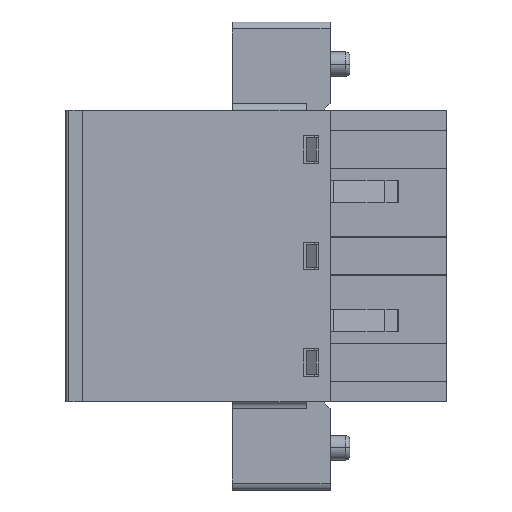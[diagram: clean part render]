
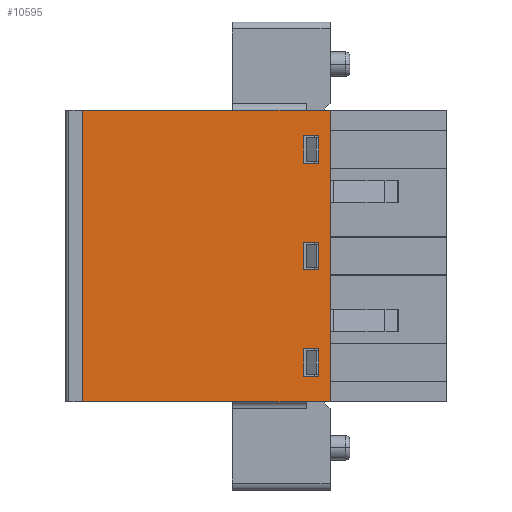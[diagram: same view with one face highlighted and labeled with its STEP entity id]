
A CAD part, left-side view. The second image highlights one B-rep face of the part: STEP entity #10595.
In plain terms, the highlighted planar face has unit normal (-1, 0, 0).
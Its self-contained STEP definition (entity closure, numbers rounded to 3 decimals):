
#947=DIRECTION('',(0.,1.,0.));
#948=VECTOR('',#947,17.7);
#949=CARTESIAN_POINT('',(0.55,8.3,-28.1));
#950=LINE('',#949,#948);
#3428=DIRECTION('',(0.,0.,-1.));
#3429=VECTOR('',#3428,20.86);
#3430=CARTESIAN_POINT('',(0.55,26.,-28.1));
#3431=LINE('',#3430,#3429);
#3436=DIRECTION('',(0.,1.,0.));
#3437=VECTOR('',#3436,17.7);
#3438=CARTESIAN_POINT('',(0.55,8.3,-48.96));
#3439=LINE('',#3438,#3437);
#3440=DIRECTION('',(0.,-1.,0.));
#3441=VECTOR('',#3440,1.1);
#3442=CARTESIAN_POINT('',(0.55,10.2,-31.91));
#3443=LINE('',#3442,#3441);
#3444=DIRECTION('',(0.,0.,1.));
#3445=VECTOR('',#3444,2.);
#3446=CARTESIAN_POINT('',(0.55,9.1,-31.91));
#3447=LINE('',#3446,#3445);
#3448=DIRECTION('',(0.,1.,0.));
#3449=VECTOR('',#3448,1.1);
#3450=CARTESIAN_POINT('',(0.55,9.1,-29.91));
#3451=LINE('',#3450,#3449);
#3452=DIRECTION('',(0.,0.,-1.));
#3453=VECTOR('',#3452,2.);
#3454=CARTESIAN_POINT('',(0.55,10.2,-29.91));
#3455=LINE('',#3454,#3453);
#3456=DIRECTION('',(0.,-1.,0.));
#3457=VECTOR('',#3456,1.1);
#3458=CARTESIAN_POINT('',(0.55,10.2,-39.53));
#3459=LINE('',#3458,#3457);
#3460=DIRECTION('',(0.,0.,1.));
#3461=VECTOR('',#3460,2.);
#3462=CARTESIAN_POINT('',(0.55,9.1,-39.53));
#3463=LINE('',#3462,#3461);
#3464=DIRECTION('',(0.,1.,0.));
#3465=VECTOR('',#3464,1.1);
#3466=CARTESIAN_POINT('',(0.55,9.1,-37.53));
#3467=LINE('',#3466,#3465);
#3468=DIRECTION('',(0.,0.,-1.));
#3469=VECTOR('',#3468,2.);
#3470=CARTESIAN_POINT('',(0.55,10.2,-37.53));
#3471=LINE('',#3470,#3469);
#3472=DIRECTION('',(0.,-1.,0.));
#3473=VECTOR('',#3472,1.1);
#3474=CARTESIAN_POINT('',(0.55,10.2,-47.15));
#3475=LINE('',#3474,#3473);
#3476=DIRECTION('',(0.,0.,1.));
#3477=VECTOR('',#3476,2.);
#3478=CARTESIAN_POINT('',(0.55,9.1,-47.15));
#3479=LINE('',#3478,#3477);
#3480=DIRECTION('',(0.,1.,0.));
#3481=VECTOR('',#3480,1.1);
#3482=CARTESIAN_POINT('',(0.55,9.1,-45.15));
#3483=LINE('',#3482,#3481);
#3484=DIRECTION('',(0.,0.,-1.));
#3485=VECTOR('',#3484,2.);
#3486=CARTESIAN_POINT('',(0.55,10.2,-45.15));
#3487=LINE('',#3486,#3485);
#3488=DIRECTION('',(0.,0.,1.));
#3489=VECTOR('',#3488,20.86);
#3490=CARTESIAN_POINT('',(0.55,8.3,-48.96));
#3491=LINE('',#3490,#3489);
#5458=CARTESIAN_POINT('',(0.55,9.1,-29.91));
#5459=VERTEX_POINT('',#5458);
#5460=CARTESIAN_POINT('',(0.55,9.1,-31.91));
#5461=VERTEX_POINT('',#5460);
#5462=CARTESIAN_POINT('',(0.55,10.2,-29.91));
#5463=VERTEX_POINT('',#5462);
#5464=CARTESIAN_POINT('',(0.55,10.2,-31.91));
#5465=VERTEX_POINT('',#5464);
#5466=CARTESIAN_POINT('',(0.55,26.,-28.1));
#5467=CARTESIAN_POINT('',(0.55,26.,-48.96));
#5468=VERTEX_POINT('',#5466);
#5469=VERTEX_POINT('',#5467);
#5470=CARTESIAN_POINT('',(0.55,8.3,-28.1));
#5471=VERTEX_POINT('',#5470);
#5472=CARTESIAN_POINT('',(0.55,8.3,-48.96));
#5473=VERTEX_POINT('',#5472);
#5474=CARTESIAN_POINT('',(0.55,10.2,-39.53));
#5475=CARTESIAN_POINT('',(0.55,9.1,-39.53));
#5476=VERTEX_POINT('',#5474);
#5477=VERTEX_POINT('',#5475);
#5478=CARTESIAN_POINT('',(0.55,9.1,-37.53));
#5479=VERTEX_POINT('',#5478);
#5480=CARTESIAN_POINT('',(0.55,10.2,-37.53));
#5481=VERTEX_POINT('',#5480);
#5482=CARTESIAN_POINT('',(0.55,10.2,-47.15));
#5483=CARTESIAN_POINT('',(0.55,9.1,-47.15));
#5484=VERTEX_POINT('',#5482);
#5485=VERTEX_POINT('',#5483);
#5486=CARTESIAN_POINT('',(0.55,9.1,-45.15));
#5487=VERTEX_POINT('',#5486);
#5488=CARTESIAN_POINT('',(0.55,10.2,-45.15));
#5489=VERTEX_POINT('',#5488);
#10553=CARTESIAN_POINT('',(0.55,26.,-49.96));
#10554=DIRECTION('',(-1.,0.,0.));
#10555=DIRECTION('',(0.,-1.,0.));
#10556=AXIS2_PLACEMENT_3D('',#10553,#10554,#10555);
#10557=PLANE('',#10556);
#10558=ORIENTED_EDGE('',*,*,#10547,.F.);
#10559=ORIENTED_EDGE('',*,*,#7621,.F.);
#10561=ORIENTED_EDGE('',*,*,#10560,.F.);
#10562=ORIENTED_EDGE('',*,*,#7073,.T.);
#10563=EDGE_LOOP('',(#10558,#10559,#10561,#10562));
#10564=FACE_OUTER_BOUND('',#10563,.F.);
#10566=ORIENTED_EDGE('',*,*,#10565,.T.);
#10568=ORIENTED_EDGE('',*,*,#10567,.T.);
#10570=ORIENTED_EDGE('',*,*,#10569,.T.);
#10572=ORIENTED_EDGE('',*,*,#10571,.T.);
#10573=EDGE_LOOP('',(#10566,#10568,#10570,#10572));
#10574=FACE_BOUND('',#10573,.F.);
#10576=ORIENTED_EDGE('',*,*,#10575,.T.);
#10578=ORIENTED_EDGE('',*,*,#10577,.T.);
#10580=ORIENTED_EDGE('',*,*,#10579,.T.);
#10582=ORIENTED_EDGE('',*,*,#10581,.T.);
#10583=EDGE_LOOP('',(#10576,#10578,#10580,#10582));
#10584=FACE_BOUND('',#10583,.F.);
#10586=ORIENTED_EDGE('',*,*,#10585,.T.);
#10588=ORIENTED_EDGE('',*,*,#10587,.T.);
#10590=ORIENTED_EDGE('',*,*,#10589,.T.);
#10592=ORIENTED_EDGE('',*,*,#10591,.T.);
#10593=EDGE_LOOP('',(#10586,#10588,#10590,#10592));
#10594=FACE_BOUND('',#10593,.F.);
#10595=ADVANCED_FACE('',(#10564,#10574,#10584,#10594),#10557,.T.);
#7073=EDGE_CURVE('',#5473,#5469,#3439,.T.);
#7621=EDGE_CURVE('',#5471,#5468,#950,.T.);
#10547=EDGE_CURVE('',#5468,#5469,#3431,.T.);
#10560=EDGE_CURVE('',#5473,#5471,#3491,.T.);
#10565=EDGE_CURVE('',#5465,#5461,#3443,.T.);
#10567=EDGE_CURVE('',#5461,#5459,#3447,.T.);
#10569=EDGE_CURVE('',#5459,#5463,#3451,.T.);
#10571=EDGE_CURVE('',#5463,#5465,#3455,.T.);
#10575=EDGE_CURVE('',#5476,#5477,#3459,.T.);
#10577=EDGE_CURVE('',#5477,#5479,#3463,.T.);
#10579=EDGE_CURVE('',#5479,#5481,#3467,.T.);
#10581=EDGE_CURVE('',#5481,#5476,#3471,.T.);
#10585=EDGE_CURVE('',#5484,#5485,#3475,.T.);
#10587=EDGE_CURVE('',#5485,#5487,#3479,.T.);
#10589=EDGE_CURVE('',#5487,#5489,#3483,.T.);
#10591=EDGE_CURVE('',#5489,#5484,#3487,.T.);
